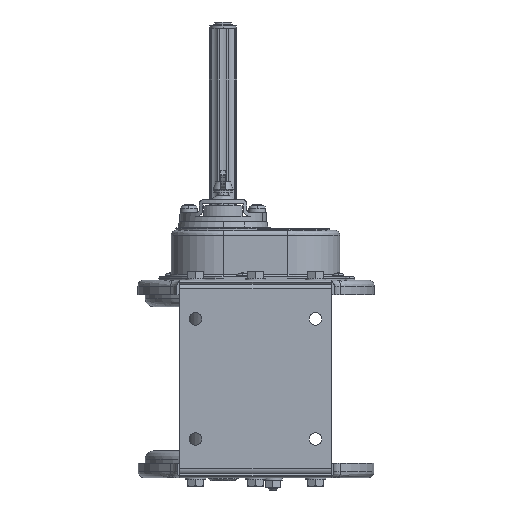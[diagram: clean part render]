
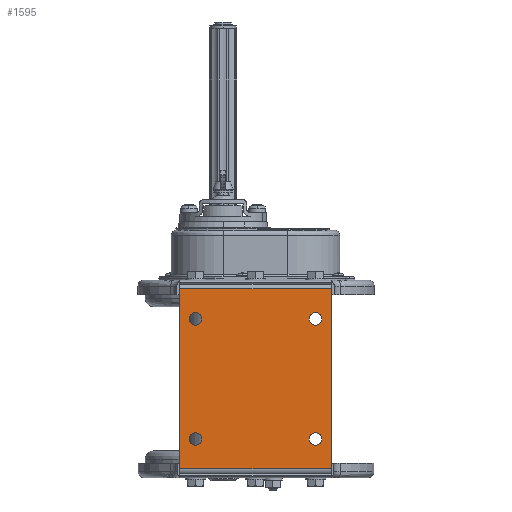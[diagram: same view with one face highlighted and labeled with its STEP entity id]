
A CAD part, front view. The second image highlights one B-rep face of the part: STEP entity #1595.
In plain terms, the highlighted planar face has unit normal (0, -1, 0).
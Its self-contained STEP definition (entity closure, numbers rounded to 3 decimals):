
#1595=ADVANCED_FACE('',(#17317,#17318,#17319,#17320,#17321),#17316,.F.);
#17316=PLANE('',#35746);
#17317=FACE_OUTER_BOUND('',#35747,.T.);
#17318=FACE_BOUND('',#35748,.T.);
#17319=FACE_BOUND('',#35749,.T.);
#17320=FACE_BOUND('',#35750,.T.);
#17321=FACE_BOUND('',#35751,.T.);
#35743=CARTESIAN_POINT('',(284.159,428.345,335.9));
#35744=DIRECTION('',(0.,1.,0.));
#35745=DIRECTION('',(0.,0.,1.));
#35746=AXIS2_PLACEMENT_3D('',#35743,#35744,#35745);
#35747=EDGE_LOOP('',(#49033,#49034,#49035,#49036));
#35748=EDGE_LOOP('',(#49037,#49038));
#35749=EDGE_LOOP('',(#49039,#49040));
#35750=EDGE_LOOP('',(#49041,#49042));
#35751=EDGE_LOOP('',(#49043,#49044));
#49033=ORIENTED_EDGE('',*,*,#57371,.F.);
#49034=ORIENTED_EDGE('',*,*,#57373,.F.);
#49035=ORIENTED_EDGE('',*,*,#57337,.T.);
#49036=ORIENTED_EDGE('',*,*,#57374,.T.);
#49037=ORIENTED_EDGE('',*,*,#57375,.T.);
#49038=ORIENTED_EDGE('',*,*,#57376,.T.);
#49039=ORIENTED_EDGE('',*,*,#57377,.T.);
#49040=ORIENTED_EDGE('',*,*,#57378,.T.);
#49041=ORIENTED_EDGE('',*,*,#57379,.T.);
#49042=ORIENTED_EDGE('',*,*,#57380,.T.);
#49043=ORIENTED_EDGE('',*,*,#57381,.T.);
#49044=ORIENTED_EDGE('',*,*,#57382,.T.);
#57337=EDGE_CURVE('',#87312,#87319,#87326,.T.);
#57371=EDGE_CURVE('',#87546,#87553,#87554,.T.);
#57373=EDGE_CURVE('',#87312,#87546,#87566,.T.);
#57374=EDGE_CURVE('',#87319,#87553,#87572,.T.);
#57375=EDGE_CURVE('',#87578,#87579,#87580,.T.);
#57376=EDGE_CURVE('',#87579,#87578,#87586,.T.);
#57377=EDGE_CURVE('',#87592,#87593,#87594,.T.);
#57378=EDGE_CURVE('',#87593,#87592,#87600,.T.);
#57379=EDGE_CURVE('',#87606,#87607,#87608,.T.);
#57380=EDGE_CURVE('',#87607,#87606,#87614,.T.);
#57381=EDGE_CURVE('',#87620,#87621,#87622,.T.);
#57382=EDGE_CURVE('',#87621,#87620,#87628,.T.);
#87312=VERTEX_POINT('',#115755);
#87319=VERTEX_POINT('',#115760);
#87326=LINE('',#115765,#115766);
#87546=VERTEX_POINT('',#115901);
#87553=VERTEX_POINT('',#115906);
#87554=LINE('',#115907,#115908);
#87566=LINE('',#115914,#115915);
#87572=LINE('',#115917,#115918);
#87578=VERTEX_POINT('',#115920);
#87579=VERTEX_POINT('',#115921);
#87580=CIRCLE('',#115925,5.25);
#87586=CIRCLE('',#115929,5.25);
#87592=VERTEX_POINT('',#115930);
#87593=VERTEX_POINT('',#115931);
#87594=CIRCLE('',#115935,5.25);
#87600=CIRCLE('',#115939,5.25);
#87606=VERTEX_POINT('',#115940);
#87607=VERTEX_POINT('',#115941);
#87608=CIRCLE('',#115945,5.25);
#87614=CIRCLE('',#115949,5.25);
#87620=VERTEX_POINT('',#115950);
#87621=VERTEX_POINT('',#115951);
#87622=CIRCLE('',#115955,5.25);
#87628=CIRCLE('',#115959,5.25);
#115755=CARTESIAN_POINT('',(420.159,428.345,495.9));
#115760=CARTESIAN_POINT('',(294.159,428.345,495.9));
#115765=CARTESIAN_POINT('',(420.159,428.345,495.9));
#115766=VECTOR('',#115767,126.);
#115767=DIRECTION('',(-1.,0.,0.));
#115901=CARTESIAN_POINT('',(420.159,428.345,345.9));
#115906=CARTESIAN_POINT('',(294.159,428.345,345.9));
#115907=CARTESIAN_POINT('',(420.159,428.345,345.9));
#115908=VECTOR('',#115909,126.);
#115909=DIRECTION('',(-1.,0.,0.));
#115914=CARTESIAN_POINT('',(420.159,428.345,495.9));
#115915=VECTOR('',#115916,150.);
#115916=DIRECTION('',(0.,0.,-1.));
#115917=CARTESIAN_POINT('',(294.159,428.345,495.9));
#115918=VECTOR('',#115919,150.);
#115919=DIRECTION('',(0.,0.,-1.));
#115920=CARTESIAN_POINT('',(307.159,428.345,376.15));
#115921=CARTESIAN_POINT('',(307.159,428.345,365.65));
#115922=CARTESIAN_POINT('',(307.159,428.345,370.9));
#115923=DIRECTION('',(0.,1.,0.));
#115924=DIRECTION('',(0.,0.,1.));
#115925=AXIS2_PLACEMENT_3D('',#115922,#115923,#115924);
#115926=CARTESIAN_POINT('',(307.159,428.345,370.9));
#115927=DIRECTION('',(0.,1.,0.));
#115928=DIRECTION('',(0.,0.,1.));
#115929=AXIS2_PLACEMENT_3D('',#115926,#115927,#115928);
#115930=CARTESIAN_POINT('',(407.159,428.345,376.15));
#115931=CARTESIAN_POINT('',(407.159,428.345,365.65));
#115932=CARTESIAN_POINT('',(407.159,428.345,370.9));
#115933=DIRECTION('',(0.,1.,0.));
#115934=DIRECTION('',(0.,0.,1.));
#115935=AXIS2_PLACEMENT_3D('',#115932,#115933,#115934);
#115936=CARTESIAN_POINT('',(407.159,428.345,370.9));
#115937=DIRECTION('',(0.,1.,0.));
#115938=DIRECTION('',(0.,0.,1.));
#115939=AXIS2_PLACEMENT_3D('',#115936,#115937,#115938);
#115940=CARTESIAN_POINT('',(407.159,428.345,476.15));
#115941=CARTESIAN_POINT('',(407.159,428.345,465.65));
#115942=CARTESIAN_POINT('',(407.159,428.345,470.9));
#115943=DIRECTION('',(0.,1.,0.));
#115944=DIRECTION('',(0.,0.,1.));
#115945=AXIS2_PLACEMENT_3D('',#115942,#115943,#115944);
#115946=CARTESIAN_POINT('',(407.159,428.345,470.9));
#115947=DIRECTION('',(0.,1.,0.));
#115948=DIRECTION('',(0.,0.,1.));
#115949=AXIS2_PLACEMENT_3D('',#115946,#115947,#115948);
#115950=CARTESIAN_POINT('',(307.159,428.345,476.15));
#115951=CARTESIAN_POINT('',(307.159,428.345,465.65));
#115952=CARTESIAN_POINT('',(307.159,428.345,470.9));
#115953=DIRECTION('',(0.,1.,0.));
#115954=DIRECTION('',(0.,0.,1.));
#115955=AXIS2_PLACEMENT_3D('',#115952,#115953,#115954);
#115956=CARTESIAN_POINT('',(307.159,428.345,470.9));
#115957=DIRECTION('',(0.,1.,0.));
#115958=DIRECTION('',(0.,0.,1.));
#115959=AXIS2_PLACEMENT_3D('',#115956,#115957,#115958);
